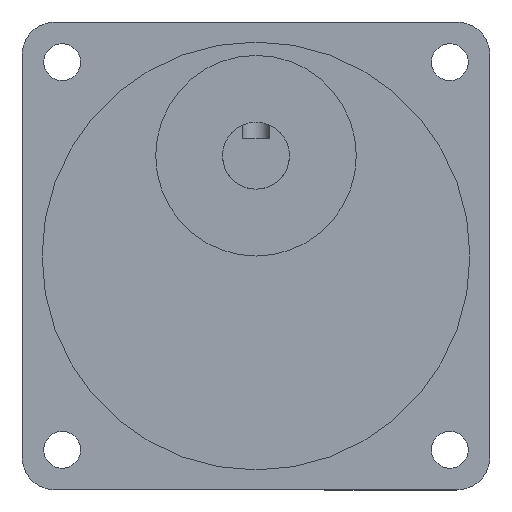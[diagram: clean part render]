
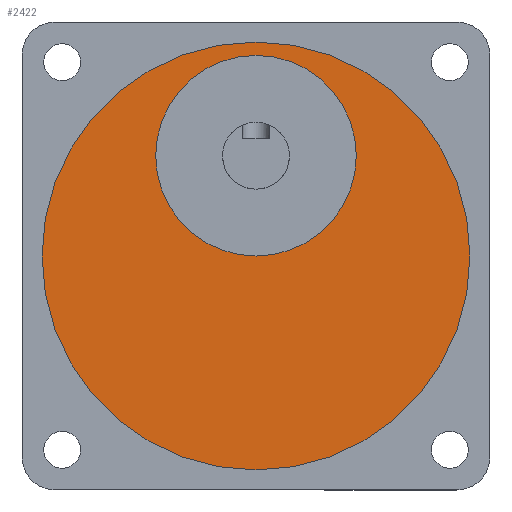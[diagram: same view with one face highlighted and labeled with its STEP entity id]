
A CAD part, front view. The second image highlights one B-rep face of the part: STEP entity #2422.
In plain terms, the highlighted planar face has unit normal (0, -1, 0).
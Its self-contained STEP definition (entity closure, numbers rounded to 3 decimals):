
#15 = PLANE ( 'NONE',  #1429 ) ;
#81 = CIRCLE ( 'NONE', #2660, 15. ) ;
#214 = CARTESIAN_POINT ( 'NONE',  ( 35., -40., 3. ) ) ;
#534 = CARTESIAN_POINT ( 'NONE',  ( 35., -40., 67. ) ) ;
#535 = AXIS2_PLACEMENT_3D ( 'NONE', #3444, #840, #4532 ) ;
#731 = EDGE_LOOP ( 'NONE', ( #3451, #2031 ) ) ;
#757 = FACE_OUTER_BOUND ( 'NONE', #3340, .T. ) ;
#840 = DIRECTION ( 'NONE',  ( 0., -1., 0. ) ) ;
#856 = AXIS2_PLACEMENT_3D ( 'NONE', #2998, #901, #4419 ) ;
#881 = AXIS2_PLACEMENT_3D ( 'NONE', #994, #3696, #1619 ) ;
#901 = DIRECTION ( 'NONE',  ( 0., -1., 0. ) ) ;
#994 = CARTESIAN_POINT ( 'NONE',  ( 35., -40., 35. ) ) ;
#1194 = FACE_BOUND ( 'NONE', #731, .T. ) ;
#1429 = AXIS2_PLACEMENT_3D ( 'NONE', #3488, #1766, #3804 ) ;
#1455 = DIRECTION ( 'NONE',  ( 0., -1., 0. ) ) ;
#1492 = ORIENTED_EDGE ( 'NONE', *, *, #1734, .T. ) ;
#1619 = DIRECTION ( 'NONE',  ( 0., 0., -1. ) ) ;
#1734 = EDGE_CURVE ( 'NONE', #2819, #2705, #4175, .T. ) ;
#1743 = CARTESIAN_POINT ( 'NONE',  ( 35., -40., 50. ) ) ;
#1766 = DIRECTION ( 'NONE',  ( 0., -1., 0. ) ) ;
#1861 = ORIENTED_EDGE ( 'NONE', *, *, #3554, .T. ) ;
#2031 = ORIENTED_EDGE ( 'NONE', *, *, #2853, .F. ) ;
#2041 = CIRCLE ( 'NONE', #535, 32. ) ;
#2336 = VERTEX_POINT ( 'NONE', #4471 ) ;
#2422 = ADVANCED_FACE ( 'NONE', ( #1194, #757 ), #15, .T. ) ;
#2660 = AXIS2_PLACEMENT_3D ( 'NONE', #1743, #1455, #3485 ) ;
#2705 = VERTEX_POINT ( 'NONE', #534 ) ;
#2819 = VERTEX_POINT ( 'NONE', #214 ) ;
#2853 = EDGE_CURVE ( 'NONE', #2336, #4310, #2882, .T. ) ;
#2882 = CIRCLE ( 'NONE', #856, 15. ) ;
#2998 = CARTESIAN_POINT ( 'NONE',  ( 35., -40., 50. ) ) ;
#3058 = EDGE_CURVE ( 'NONE', #4310, #2336, #81, .T. ) ;
#3340 = EDGE_LOOP ( 'NONE', ( #1492, #1861 ) ) ;
#3444 = CARTESIAN_POINT ( 'NONE',  ( 35., -40., 35. ) ) ;
#3451 = ORIENTED_EDGE ( 'NONE', *, *, #3058, .F. ) ;
#3485 = DIRECTION ( 'NONE',  ( 0., 0., -1. ) ) ;
#3488 = CARTESIAN_POINT ( 'NONE',  ( 35., -40., 35. ) ) ;
#3554 = EDGE_CURVE ( 'NONE', #2705, #2819, #2041, .T. ) ;
#3696 = DIRECTION ( 'NONE',  ( 0., -1., 0. ) ) ;
#3804 = DIRECTION ( 'NONE',  ( 0., 0., -1. ) ) ;
#3876 = CARTESIAN_POINT ( 'NONE',  ( 35., -40., 65. ) ) ;
#4175 = CIRCLE ( 'NONE', #881, 32. ) ;
#4310 = VERTEX_POINT ( 'NONE', #3876 ) ;
#4419 = DIRECTION ( 'NONE',  ( 0., 0., -1. ) ) ;
#4471 = CARTESIAN_POINT ( 'NONE',  ( 35., -40., 35. ) ) ;
#4532 = DIRECTION ( 'NONE',  ( 0., 0., -1. ) ) ;
